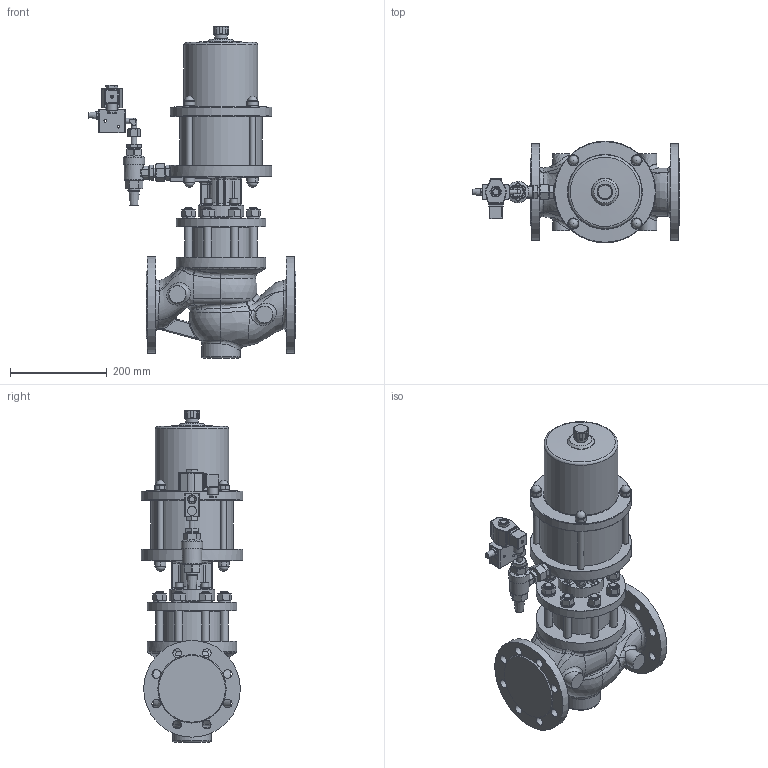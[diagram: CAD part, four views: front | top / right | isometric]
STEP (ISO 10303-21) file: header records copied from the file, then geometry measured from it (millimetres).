
FILE_DESCRIPTION((''),'2;1');
FILE_NAME('G:\CAD-Download\EPVA\40-4-EPVA\DN 30N (80)\40-4-EPVA 30NH-4.stp','2010-11-15T13:37:56',('da'),(''),'Autodesk Inventor 2008','Autodesk Inventor 2008','');
FILE_SCHEMA(('AUTOMOTIVE_DESIGN { 1 0 10303 214 1 1 1 1 }'));
Length unit declared in the file: millimetre
Products named in the file (1): Bauteil7
Bounding box: 429.8 x 210 x 687.05 mm (x, y, z)
Volume: 14031101.1 mm3; surface area: 800992 mm2
Topology: 1 solids, 4 shells, 1348 faces, 3446 edges, 2153 vertices
Faces by surface type: plane 618, cylinder 270, bspline 256, cone 142, torus 35, sphere 27
Full cylindrical faces by diameter (mm): 5.5 x1, 6.4 x1, 6.9 x1, 10 x4, 10.957 x1, 10.997 x1, 12 x9, 13 x4, 14 x1, 16 x28, 18 x9, 20.15 x2, 21.2 x8, 21.5 x1, 23 x9, 24.376 x1, 26 x1, 26.6 x1, 27 x3, 32.2 x1, 35 x2, 40 x1, 44 x1, 50 x1, 80 x1, 94 x1, 109.8 x1, 121 x1, 153 x1, 170 x1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
Entity records: 92290 total; most frequent: CARTESIAN_POINT 61849, ORIENTED_EDGE 6124, DIRECTION 5474, EDGE_CURVE 3062, AXIS2_PLACEMENT_3D 2152, VERTEX_POINT 2039, EDGE_LOOP 1774, FACE_OUTER_BOUND 1347
